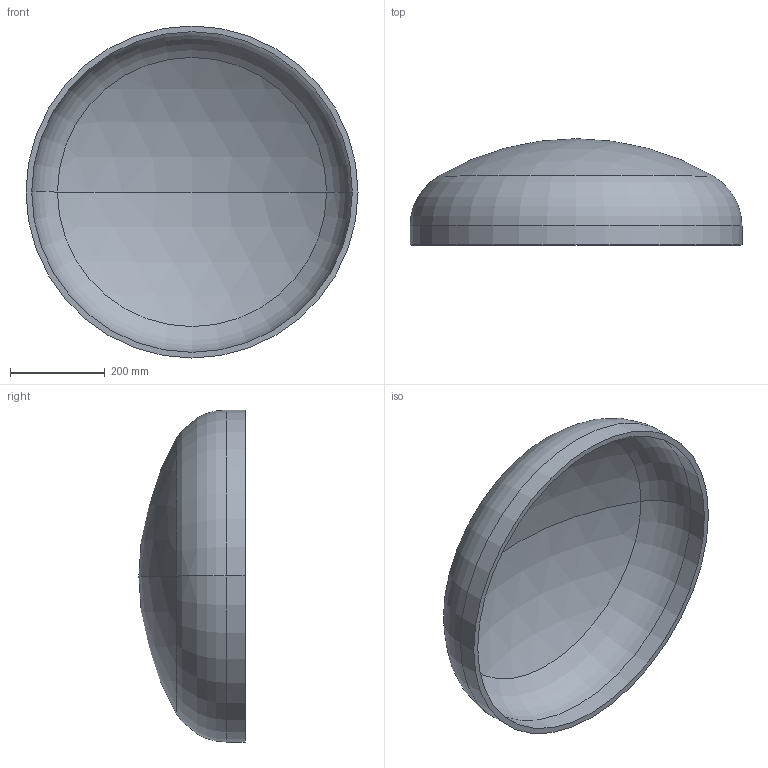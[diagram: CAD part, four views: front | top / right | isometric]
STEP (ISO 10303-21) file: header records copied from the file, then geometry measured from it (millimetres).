
FILE_DESCRIPTION (( 'STEP AP203' ), '1' );
FILE_NAME ('DIN 28013 Korbbogenform_-_Boden DIN 28013 - 700 x 40 - I - s=12.step', '2016-07-01T08:04:19', ( '' ), ( '' ), 'SwSTEP 2.0', 'SolidWorks 2013', '' );
FILE_SCHEMA (( 'CONFIG_CONTROL_DESIGN' ));
Length unit declared in the file: millimetre
Products named in the file (1): DIN 28013 Korbbogenform_-_Boden DIN 28013 - 700 x 40 - I - s=12
Bounding box: 700 x 224.04 x 700 mm (x, y, z)
Volume: 7315798.9 mm3; surface area: 1245538 mm2
Topology: 1 solids, 1 shells, 13 faces, 24 edges, 14 vertices
Faces by surface type: torus 4, cylinder 4, sphere 4, plane 1
Entity records: 407 total; most frequent: DIRECTION 72, CARTESIAN_POINT 52, ORIENTED_EDGE 48, AXIS2_PLACEMENT_3D 34, EDGE_CURVE 24, CIRCLE 20, EDGE_LOOP 14, VERTEX_POINT 14
